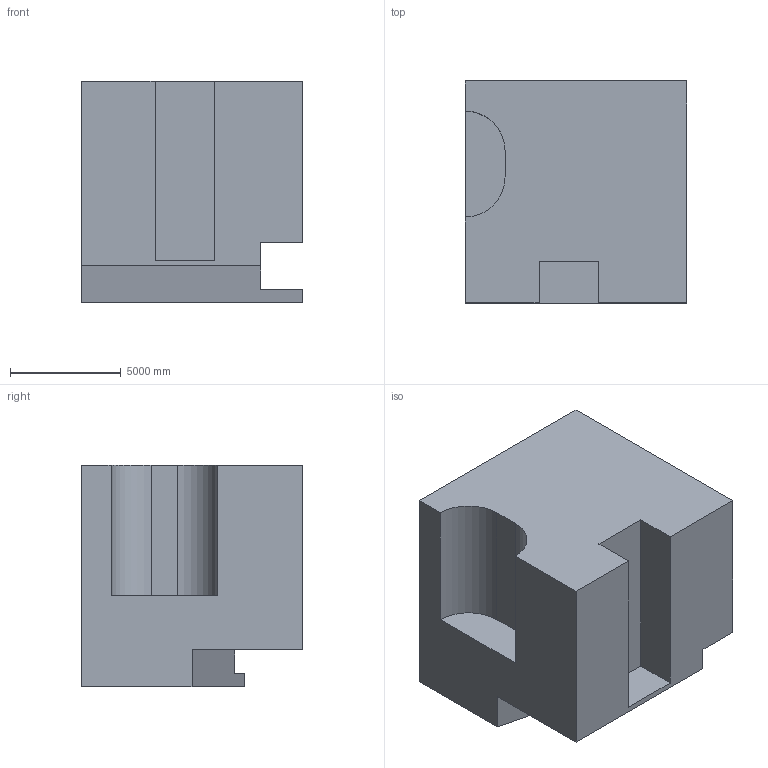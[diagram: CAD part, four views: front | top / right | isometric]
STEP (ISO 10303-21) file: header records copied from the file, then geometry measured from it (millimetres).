
FILE_DESCRIPTION (( 'STEP AP203' ), '1' );
FILE_NAME ('357.STEP', '2022-07-28T14:28:13', ( 'user' ), ( '' ), 'SwSTEP 2.0', 'SolidWorks 2021', '' );
FILE_SCHEMA (( 'CONFIG_CONTROL_DESIGN' ));
Length unit declared in the file: centimetre
Products named in the file (1): 357
Bounding box: 10000 x 10000 x 10000 mm (x, y, z)
Volume: 818623295393.6 mm3; surface area: 648615614.9 mm2
Topology: 1 solids, 1 shells, 20 faces, 54 edges, 36 vertices
Faces by surface type: plane 18, cylinder 2
Entity records: 699 total; most frequent: CARTESIAN_POINT 111, ORIENTED_EDGE 108, DIRECTION 100, EDGE_CURVE 54, VECTOR 50, LINE 50, VERTEX_POINT 36, AXIS2_PLACEMENT_3D 25
